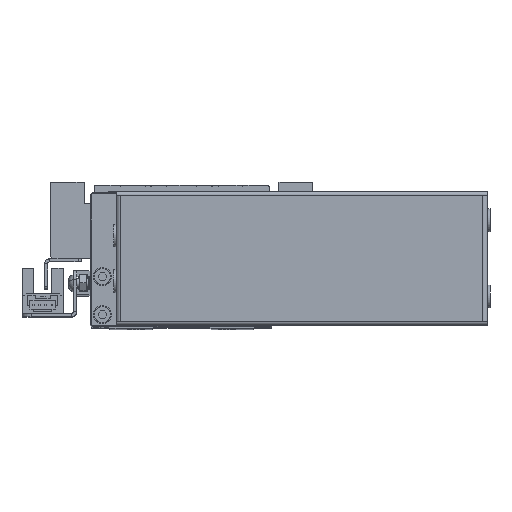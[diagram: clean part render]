
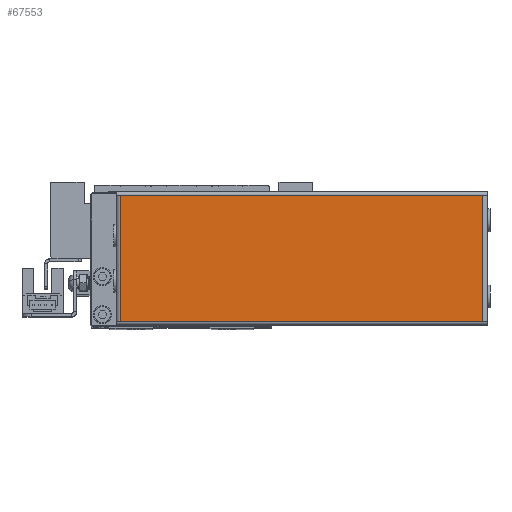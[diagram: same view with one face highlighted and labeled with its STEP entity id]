
A CAD part, top view. The second image highlights one B-rep face of the part: STEP entity #67553.
In plain terms, the highlighted planar face has unit normal (0, 0, 1) as drawn and (0, 0, -1) by its records, which use the part's own axes.
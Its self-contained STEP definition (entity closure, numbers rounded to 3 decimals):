
#4 = ORIENTED_EDGE ( 'NONE', *, *, #19319, .T. ) ;
#64 = EDGE_CURVE ( 'NONE', #14050, #45132, #23306, .T. ) ;
#2493 = VECTOR ( 'NONE', #22915, 1000. ) ;
#3183 = EDGE_CURVE ( 'NONE', #57048, #47290, #45510, .T. ) ;
#7635 = ORIENTED_EDGE ( 'NONE', *, *, #39914, .T. ) ;
#12055 = CARTESIAN_POINT ( 'NONE',  ( 1.5, 1.3, -1. ) ) ;
#14050 = VERTEX_POINT ( 'NONE', #34266 ) ;
#16034 = CARTESIAN_POINT ( 'NONE',  ( 120.5, 1.3, -1. ) ) ;
#19319 = EDGE_CURVE ( 'NONE', #45132, #57048, #57947, .T. ) ;
#20942 = EDGE_LOOP ( 'NONE', ( #39988, #4, #37106, #7635 ) ) ;
#22878 = DIRECTION ( 'NONE',  ( 0., 0., -1. ) ) ;
#22915 = DIRECTION ( 'NONE',  ( -1., 0., 0. ) ) ;
#23306 = LINE ( 'NONE', #28404, #66240 ) ;
#24665 = DIRECTION ( 'NONE',  ( 0., -1., 0. ) ) ;
#27631 = CARTESIAN_POINT ( 'NONE',  ( 0., 0., -1. ) ) ;
#28404 = CARTESIAN_POINT ( 'NONE',  ( 0., 42.7, -1. ) ) ;
#29876 = CARTESIAN_POINT ( 'NONE',  ( 120.5, 42.7, -1. ) ) ;
#33064 = CARTESIAN_POINT ( 'NONE',  ( 120.5, 42.7, -1. ) ) ;
#34246 = DIRECTION ( 'NONE',  ( 1., 0., 0. ) ) ;
#34266 = CARTESIAN_POINT ( 'NONE',  ( 1.5, 42.7, -1. ) ) ;
#37106 = ORIENTED_EDGE ( 'NONE', *, *, #3183, .T. ) ;
#39914 = EDGE_CURVE ( 'NONE', #47290, #14050, #60642, .T. ) ;
#39988 = ORIENTED_EDGE ( 'NONE', *, *, #64, .T. ) ;
#40815 = AXIS2_PLACEMENT_3D ( 'NONE', #27631, #22878, #64996 ) ;
#42804 = VECTOR ( 'NONE', #24665, 1000. ) ;
#44051 = PLANE ( 'NONE',  #40815 ) ;
#45132 = VERTEX_POINT ( 'NONE', #33064 ) ;
#45510 = LINE ( 'NONE', #61193, #2493 ) ;
#47290 = VERTEX_POINT ( 'NONE', #57827 ) ;
#55127 = DIRECTION ( 'NONE',  ( 0., 1., 0. ) ) ;
#56482 = VECTOR ( 'NONE', #55127, 1000. ) ;
#57048 = VERTEX_POINT ( 'NONE', #16034 ) ;
#57158 = FACE_OUTER_BOUND ( 'NONE', #20942, .T. ) ;
#57827 = CARTESIAN_POINT ( 'NONE',  ( 1.5, 1.3, -1. ) ) ;
#57947 = LINE ( 'NONE', #29876, #42804 ) ;
#60642 = LINE ( 'NONE', #12055, #56482 ) ;
#61193 = CARTESIAN_POINT ( 'NONE',  ( 122., 1.3, -1. ) ) ;
#64996 = DIRECTION ( 'NONE',  ( -1., 0., 0. ) ) ;
#66240 = VECTOR ( 'NONE', #34246, 1000. ) ;
#67553 = ADVANCED_FACE ( 'NONE', ( #57158 ), #44051, .T. ) ;
